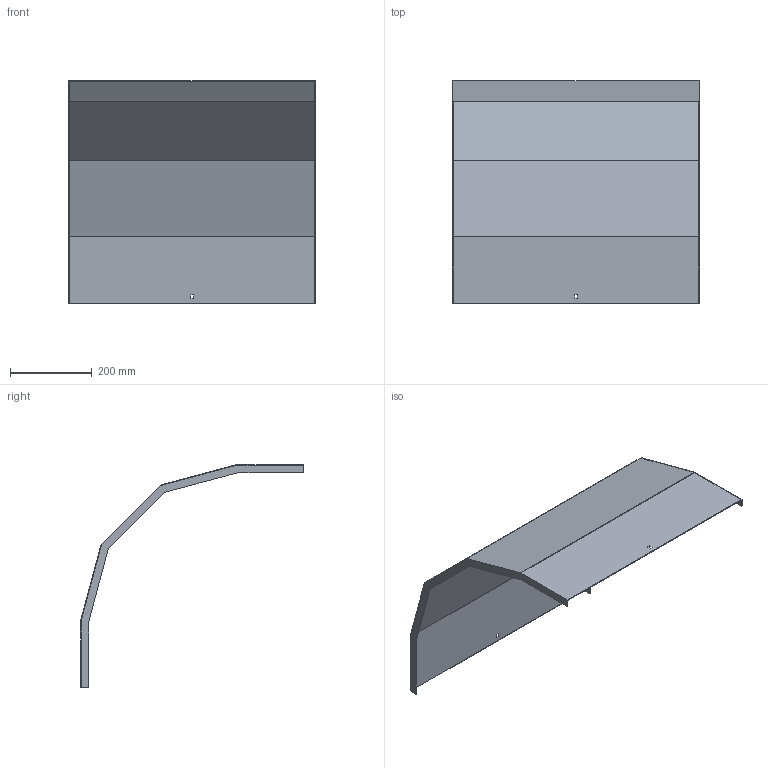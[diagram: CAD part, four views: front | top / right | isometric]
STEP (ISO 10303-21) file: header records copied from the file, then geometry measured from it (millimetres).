
FILE_DESCRIPTION (( 'STEP AP214' ), '1' );
FILE_NAME ('A2_33N3C600.step', '2025-02-21T10:44:34', ( '' ), ( '' ), 'SwSTEP 2.0', 'SolidWorks 2023', '' );
FILE_SCHEMA (( 'AUTOMOTIVE_DESIGN' ));
Length unit declared in the file: millimetre
Products named in the file (1): A2_33N3C600
Bounding box: 603 x 544.46 x 544.46 mm (x, y, z)
Volume: 878075.9 mm3; surface area: 1175439.5 mm2
Topology: 1 solids, 1 shells, 34 faces, 96 edges, 64 vertices
Faces by surface type: plane 34
Entity records: 1111 total; most frequent: CARTESIAN_POINT 195, ORIENTED_EDGE 192, DIRECTION 166, LINE 96, EDGE_CURVE 96, VECTOR 96, VERTEX_POINT 64, EDGE_LOOP 38
